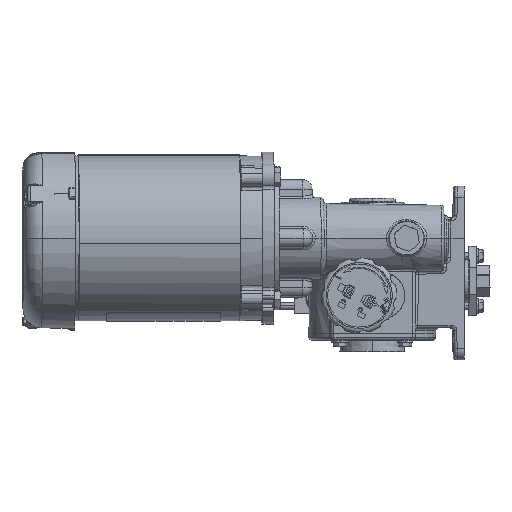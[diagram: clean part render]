
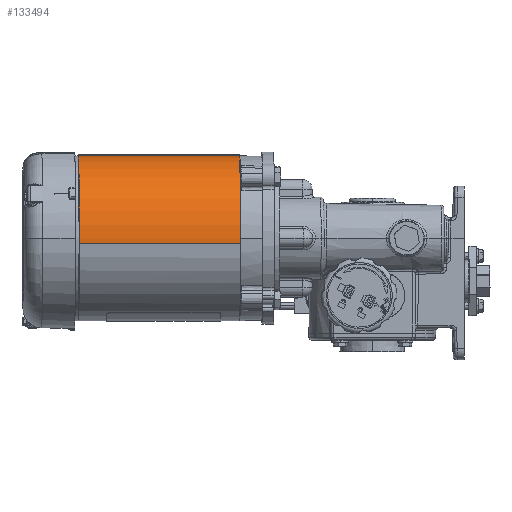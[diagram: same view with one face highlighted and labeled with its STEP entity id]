
A CAD part, left-side view. The second image highlights one B-rep face of the part: STEP entity #133494.
In plain terms, the highlighted cylindrical face has radius 71.369 mm (diameter 142.738 mm), a partial arc.
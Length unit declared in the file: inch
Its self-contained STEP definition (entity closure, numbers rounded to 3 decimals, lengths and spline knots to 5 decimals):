
#2652 = DIRECTION ( 'NONE',  ( 0.01, -1., 0. ) ) ;
#4560 = LINE ( 'NONE', #90891, #105888 ) ;
#6647 = AXIS2_PLACEMENT_3D ( 'NONE', #75670, #191087, #89261 ) ;
#13516 = EDGE_CURVE ( 'NONE', #74786, #98274, #19529, .T. ) ;
#19529 = CIRCLE ( 'NONE', #183678, 2.8098 ) ;
#23767 = ORIENTED_EDGE ( 'NONE', *, *, #98816, .F. ) ;
#32620 = DIRECTION ( 'NONE',  ( 0.01, -1., 0. ) ) ;
#34676 = VERTEX_POINT ( 'NONE', #189704 ) ;
#35884 = ORIENTED_EDGE ( 'NONE', *, *, #83435, .T. ) ;
#37076 = CARTESIAN_POINT ( 'NONE',  ( -6.28659, 3.16057, 1.6908 ) ) ;
#39315 = CARTESIAN_POINT ( 'NONE',  ( -3.48295, 3.18903, 1.87457 ) ) ;
#42390 = CARTESIAN_POINT ( 'NONE',  ( -6.34222, 8.64029, 1.6908 ) ) ;
#51803 = ORIENTED_EDGE ( 'NONE', *, *, #56977, .T. ) ;
#55583 = LINE ( 'NONE', #112849, #100974 ) ;
#56977 = EDGE_CURVE ( 'NONE', #171165, #34676, #127324, .T. ) ;
#60637 = FACE_OUTER_BOUND ( 'NONE', #188550, .T. ) ;
#61595 = CARTESIAN_POINT ( 'NONE',  ( -3.69168, 23.74854, 1.87457 ) ) ;
#74786 = VERTEX_POINT ( 'NONE', #119425 ) ;
#75670 = CARTESIAN_POINT ( 'NONE',  ( -3.48295, 3.18903, 1.87457 ) ) ;
#75931 = CARTESIAN_POINT ( 'NONE',  ( -3.53858, 8.66875, 1.87457 ) ) ;
#78425 = ORIENTED_EDGE ( 'NONE', *, *, #113066, .T. ) ;
#82168 = ORIENTED_EDGE ( 'NONE', *, *, #83267, .T. ) ;
#83267 = EDGE_CURVE ( 'NONE', #98274, #102358, #117573, .T. ) ;
#83435 = EDGE_CURVE ( 'NONE', #189594, #171165, #161033, .T. ) ;
#85827 = DIRECTION ( 'NONE',  ( -1., -0.01, 0. ) ) ;
#89261 = DIRECTION ( 'NONE',  ( -1., -0.01, 0. ) ) ;
#90891 = CARTESIAN_POINT ( 'NONE',  ( -6.49532, 23.72007, 1.6908 ) ) ;
#98274 = VERTEX_POINT ( 'NONE', #169848 ) ;
#98816 = EDGE_CURVE ( 'NONE', #74786, #34676, #55583, .T. ) ;
#100974 = VECTOR ( 'NONE', #144768, 39.37008 ) ;
#101197 = DIRECTION ( 'NONE',  ( 0.01, -1., 0. ) ) ;
#102122 = ORIENTED_EDGE ( 'NONE', *, *, #13516, .T. ) ;
#102358 = VERTEX_POINT ( 'NONE', #42390 ) ;
#105003 = DIRECTION ( 'NONE',  ( 1., 0.01, 0. ) ) ;
#105888 = VECTOR ( 'NONE', #2652, 39.37008 ) ;
#107158 = CYLINDRICAL_SURFACE ( 'NONE', #150814, 2.8098 ) ;
#110140 = DIRECTION ( 'NONE',  ( -0.01, 1., 0. ) ) ;
#112849 = CARTESIAN_POINT ( 'NONE',  ( -3.7233, 8.76188, 4.67835 ) ) ;
#113066 = EDGE_CURVE ( 'NONE', #102358, #189594, #4560, .T. ) ;
#117573 = CIRCLE ( 'NONE', #191894, 2.8098 ) ;
#119425 = CARTESIAN_POINT ( 'NONE',  ( -3.72234, 8.66688, 4.67835 ) ) ;
#122772 = CARTESIAN_POINT ( 'NONE',  ( -3.53858, 8.66875, 1.87457 ) ) ;
#127324 = CIRCLE ( 'NONE', #6647, 2.8098 ) ;
#133494 = ADVANCED_FACE ( 'NONE', ( #60637 ), #107158, .T. ) ;
#135295 = DIRECTION ( 'NONE',  ( 0.01, -1., 0. ) ) ;
#136935 = CARTESIAN_POINT ( 'NONE',  ( -6.2926, 3.16051, 1.87457 ) ) ;
#142298 = AXIS2_PLACEMENT_3D ( 'NONE', #39315, #110140, #85827 ) ;
#144768 = DIRECTION ( 'NONE',  ( 0.01, -1., 0. ) ) ;
#149835 = DIRECTION ( 'NONE',  ( -0.998, -0.01, -0.065 ) ) ;
#150814 = AXIS2_PLACEMENT_3D ( 'NONE', #61595, #135295, #149835 ) ;
#161033 = CIRCLE ( 'NONE', #142298, 2.8098 ) ;
#169848 = CARTESIAN_POINT ( 'NONE',  ( -6.34824, 8.64022, 1.87457 ) ) ;
#171165 = VERTEX_POINT ( 'NONE', #136935 ) ;
#181914 = DIRECTION ( 'NONE',  ( 1., 0.01, 0. ) ) ;
#183678 = AXIS2_PLACEMENT_3D ( 'NONE', #75931, #101197, #105003 ) ;
#188550 = EDGE_LOOP ( 'NONE', ( #102122, #82168, #78425, #35884, #51803, #23767 ) ) ;
#189594 = VERTEX_POINT ( 'NONE', #37076 ) ;
#189704 = CARTESIAN_POINT ( 'NONE',  ( -3.66671, 3.18717, 4.67835 ) ) ;
#191087 = DIRECTION ( 'NONE',  ( -0.01, 1., 0. ) ) ;
#191894 = AXIS2_PLACEMENT_3D ( 'NONE', #122772, #32620, #181914 ) ;
